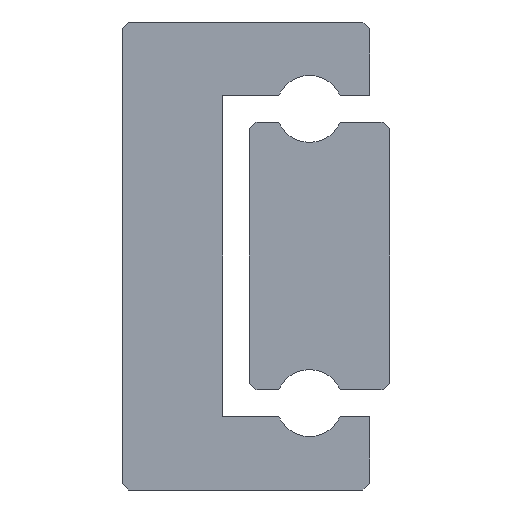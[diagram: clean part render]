
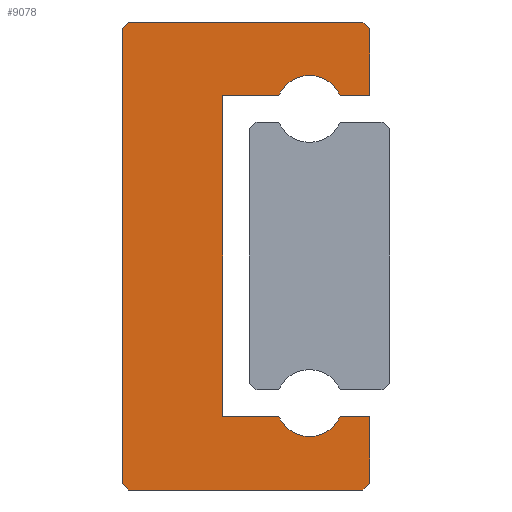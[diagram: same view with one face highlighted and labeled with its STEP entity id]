
A CAD part, left-side view. The second image highlights one B-rep face of the part: STEP entity #9078.
In plain terms, the highlighted planar face has unit normal (-1, 0, 0).
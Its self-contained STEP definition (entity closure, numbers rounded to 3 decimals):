
#63=PLANE('',#9880);
#269=LINE('',#13826,#1075);
#407=LINE('',#14599,#1213);
#410=LINE('',#14605,#1216);
#413=LINE('',#14611,#1219);
#417=LINE('',#14623,#1223);
#420=LINE('',#14633,#1226);
#423=LINE('',#14639,#1229);
#427=LINE('',#14651,#1233);
#430=LINE('',#14657,#1236);
#433=LINE('',#14663,#1239);
#436=LINE('',#14669,#1242);
#439=LINE('',#14675,#1245);
#442=LINE('',#14685,#1248);
#445=LINE('',#14691,#1251);
#1075=VECTOR('',#10791,1000.);
#1213=VECTOR('',#11427,1000.);
#1216=VECTOR('',#11432,1000.);
#1219=VECTOR('',#11437,1000.);
#1223=VECTOR('',#11449,1000.);
#1226=VECTOR('',#11458,1000.);
#1229=VECTOR('',#11463,1000.);
#1233=VECTOR('',#11475,1000.);
#1236=VECTOR('',#11480,1000.);
#1239=VECTOR('',#11485,1000.);
#1242=VECTOR('',#11490,1000.);
#1245=VECTOR('',#11495,1000.);
#1248=VECTOR('',#11504,1000.);
#1251=VECTOR('',#11509,1000.);
#2403=ORIENTED_EDGE('',*,*,#4717,.F.);
#2404=ORIENTED_EDGE('',*,*,#5149,.F.);
#2405=ORIENTED_EDGE('',*,*,#5146,.F.);
#2406=ORIENTED_EDGE('',*,*,#5141,.F.);
#2407=ORIENTED_EDGE('',*,*,#5138,.F.);
#2408=ORIENTED_EDGE('',*,*,#5135,.F.);
#2409=ORIENTED_EDGE('',*,*,#5132,.F.);
#2410=ORIENTED_EDGE('',*,*,#5129,.F.);
#2411=ORIENTED_EDGE('',*,*,#5126,.T.);
#2412=ORIENTED_EDGE('',*,*,#5123,.F.);
#2413=ORIENTED_EDGE('',*,*,#5120,.F.);
#2414=ORIENTED_EDGE('',*,*,#5115,.F.);
#2415=ORIENTED_EDGE('',*,*,#5112,.T.);
#2416=ORIENTED_EDGE('',*,*,#5109,.F.);
#2417=ORIENTED_EDGE('',*,*,#5106,.F.);
#2418=ORIENTED_EDGE('',*,*,#5103,.F.);
#4717=EDGE_CURVE('',#6117,#6118,#269,.T.);
#5103=EDGE_CURVE('',#6118,#6503,#407,.T.);
#5106=EDGE_CURVE('',#6503,#6505,#410,.T.);
#5109=EDGE_CURVE('',#6505,#6507,#413,.T.);
#5112=EDGE_CURVE('',#6509,#6507,#7291,.T.);
#5115=EDGE_CURVE('',#6509,#6511,#417,.T.);
#5120=EDGE_CURVE('',#6511,#6515,#420,.T.);
#5123=EDGE_CURVE('',#6515,#6517,#423,.T.);
#5126=EDGE_CURVE('',#6519,#6517,#7295,.T.);
#5129=EDGE_CURVE('',#6519,#6521,#427,.T.);
#5132=EDGE_CURVE('',#6521,#6523,#430,.T.);
#5135=EDGE_CURVE('',#6523,#6525,#433,.T.);
#5138=EDGE_CURVE('',#6525,#6527,#436,.T.);
#5141=EDGE_CURVE('',#6527,#6529,#439,.T.);
#5146=EDGE_CURVE('',#6529,#6533,#442,.T.);
#5149=EDGE_CURVE('',#6533,#6117,#445,.T.);
#6117=VERTEX_POINT('',#13827);
#6118=VERTEX_POINT('',#13828);
#6503=VERTEX_POINT('',#14600);
#6505=VERTEX_POINT('',#14606);
#6507=VERTEX_POINT('',#14612);
#6509=VERTEX_POINT('',#14618);
#6511=VERTEX_POINT('',#14624);
#6515=VERTEX_POINT('',#14634);
#6517=VERTEX_POINT('',#14640);
#6519=VERTEX_POINT('',#14646);
#6521=VERTEX_POINT('',#14652);
#6523=VERTEX_POINT('',#14658);
#6525=VERTEX_POINT('',#14664);
#6527=VERTEX_POINT('',#14670);
#6529=VERTEX_POINT('',#14676);
#6533=VERTEX_POINT('',#14686);
#7291=CIRCLE('',#9860,0.5);
#7295=CIRCLE('',#9868,0.5);
#7709=EDGE_LOOP('',(#2403,#2404,#2405,#2406,#2407,#2408,#2409,#2410,#2411,
#2412,#2413,#2414,#2415,#2416,#2417,#2418));
#8261=FACE_BOUND('',#7709,.T.);
#9078=ADVANCED_FACE('',(#8261),#63,.F.);
#9860=AXIS2_PLACEMENT_3D('',#14617,#11442,#11443);
#9868=AXIS2_PLACEMENT_3D('',#14645,#11468,#11469);
#9880=AXIS2_PLACEMENT_3D('',#14694,#11513,#11514);
#10791=DIRECTION('',(0.,-1.,0.));
#11427=DIRECTION('',(0.,-0.707,-0.707));
#11432=DIRECTION('',(0.,0.,-1.));
#11437=DIRECTION('',(0.,1.,0.));
#11442=DIRECTION('',(1.,0.,0.));
#11443=DIRECTION('',(0.,0.,-1.));
#11449=DIRECTION('',(0.,1.,0.));
#11458=DIRECTION('',(0.,0.,-1.));
#11463=DIRECTION('',(0.,-1.,0.));
#11468=DIRECTION('',(1.,0.,0.));
#11469=DIRECTION('',(0.,0.,-1.));
#11475=DIRECTION('',(0.,-1.,0.));
#11480=DIRECTION('',(0.,0.,-1.));
#11485=DIRECTION('',(0.,0.707,-0.707));
#11490=DIRECTION('',(0.,1.,0.));
#11495=DIRECTION('',(0.,0.707,0.707));
#11504=DIRECTION('',(0.,0.,1.));
#11509=DIRECTION('',(0.,-0.707,0.707));
#11513=DIRECTION('',(1.,0.,0.));
#11514=DIRECTION('',(0.,0.,-1.));
#13826=CARTESIAN_POINT('',(-12.5,3.6,3.5));
#13827=CARTESIAN_POINT('',(-12.5,3.6,3.5));
#13828=CARTESIAN_POINT('',(-12.5,0.1,3.5));
#14599=CARTESIAN_POINT('',(-12.5,0.1,3.5));
#14600=CARTESIAN_POINT('',(-12.5,0.,3.4));
#14605=CARTESIAN_POINT('',(-12.5,0.,3.4));
#14606=CARTESIAN_POINT('',(-12.5,0.,2.4));
#14611=CARTESIAN_POINT('',(-12.5,0.,2.4));
#14612=CARTESIAN_POINT('',(-12.5,0.442,2.4));
#14617=CARTESIAN_POINT('',(-12.5,0.9,2.2));
#14618=CARTESIAN_POINT('',(-12.5,1.358,2.4));
#14623=CARTESIAN_POINT('',(-12.5,1.358,2.4));
#14624=CARTESIAN_POINT('',(-12.5,2.2,2.4));
#14633=CARTESIAN_POINT('',(-12.5,2.2,2.4));
#14634=CARTESIAN_POINT('',(-12.5,2.2,-2.4));
#14639=CARTESIAN_POINT('',(-12.5,2.2,-2.4));
#14640=CARTESIAN_POINT('',(-12.5,1.358,-2.4));
#14645=CARTESIAN_POINT('',(-12.5,0.9,-2.2));
#14646=CARTESIAN_POINT('',(-12.5,0.442,-2.4));
#14651=CARTESIAN_POINT('',(-12.5,0.442,-2.4));
#14652=CARTESIAN_POINT('',(-12.5,0.,-2.4));
#14657=CARTESIAN_POINT('',(-12.5,0.,-2.4));
#14658=CARTESIAN_POINT('',(-12.5,0.,-3.4));
#14663=CARTESIAN_POINT('',(-12.5,0.,-3.4));
#14664=CARTESIAN_POINT('',(-12.5,0.1,-3.5));
#14669=CARTESIAN_POINT('',(-12.5,0.1,-3.5));
#14670=CARTESIAN_POINT('',(-12.5,3.6,-3.5));
#14675=CARTESIAN_POINT('',(-12.5,3.6,-3.5));
#14676=CARTESIAN_POINT('',(-12.5,3.7,-3.4));
#14685=CARTESIAN_POINT('',(-12.5,3.7,-3.4));
#14686=CARTESIAN_POINT('',(-12.5,3.7,3.4));
#14691=CARTESIAN_POINT('',(-12.5,3.7,3.4));
#14694=CARTESIAN_POINT('',(-12.5,0.9,2.2));
